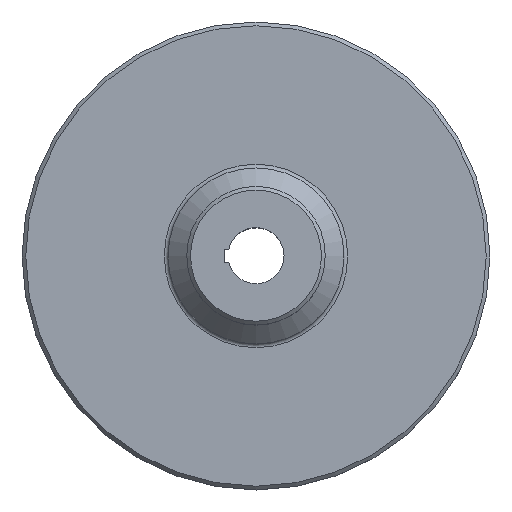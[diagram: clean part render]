
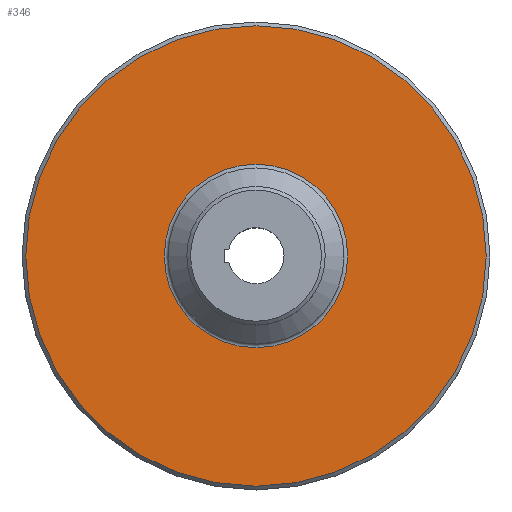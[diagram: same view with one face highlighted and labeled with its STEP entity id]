
A CAD part, top view. The second image highlights one B-rep face of the part: STEP entity #346.
In plain terms, the highlighted planar face has unit normal (0, 0, 1).
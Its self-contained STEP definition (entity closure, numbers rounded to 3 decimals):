
#23=PLANE('',#384);
#65=FACE_BOUND('',#120,.T.);
#86=FACE_OUTER_BOUND('',#119,.T.);
#119=EDGE_LOOP('',(#256));
#120=EDGE_LOOP('',(#257));
#154=CIRCLE('',#381,49.);
#156=CIRCLE('',#385,123.);
#178=VERTEX_POINT('',#737);
#180=VERTEX_POINT('',#743);
#209=EDGE_CURVE('',#178,#178,#154,.T.);
#211=EDGE_CURVE('',#180,#180,#156,.T.);
#256=ORIENTED_EDGE('',*,*,#211,.F.);
#257=ORIENTED_EDGE('',*,*,#209,.F.);
#346=ADVANCED_FACE('',(#86,#65),#23,.T.);
#381=AXIS2_PLACEMENT_3D('',#738,#442,#443);
#384=AXIS2_PLACEMENT_3D('',#742,#448,#449);
#385=AXIS2_PLACEMENT_3D('',#744,#450,#451);
#442=DIRECTION('center_axis',(0.,0.,1.));
#443=DIRECTION('ref_axis',(-1.,0.,0.));
#448=DIRECTION('center_axis',(0.,0.,1.));
#449=DIRECTION('ref_axis',(1.,0.,0.));
#450=DIRECTION('center_axis',(0.,0.,-1.));
#451=DIRECTION('ref_axis',(-1.,0.,0.));
#737=CARTESIAN_POINT('',(42.158,-11.257,-39.415));
#738=CARTESIAN_POINT('Origin',(-6.842,-11.257,-39.415));
#742=CARTESIAN_POINT('Origin',(-6.842,-11.257,-39.415));
#743=CARTESIAN_POINT('',(116.158,-11.257,-39.415));
#744=CARTESIAN_POINT('Origin',(-6.842,-11.257,-39.415));
